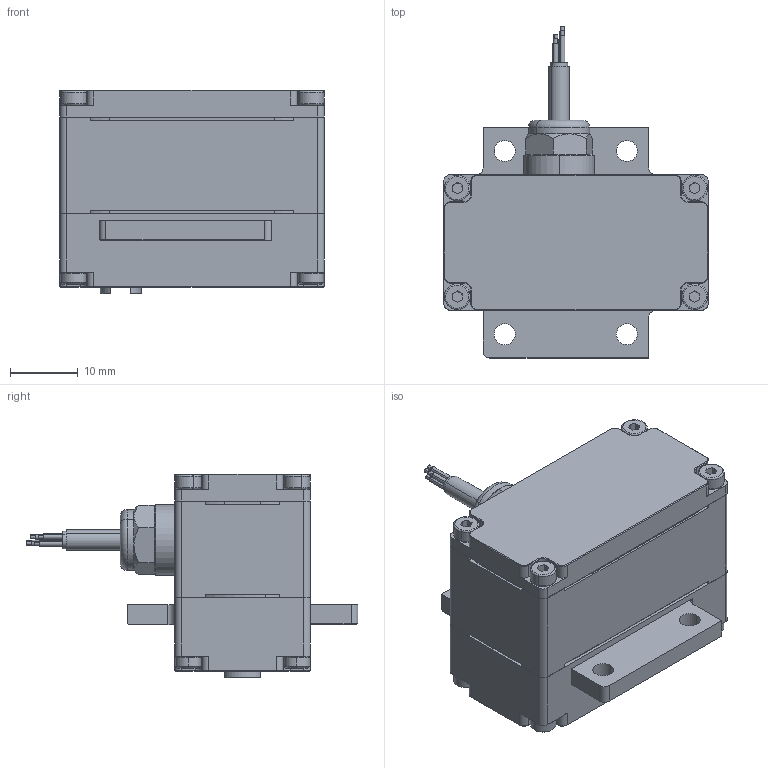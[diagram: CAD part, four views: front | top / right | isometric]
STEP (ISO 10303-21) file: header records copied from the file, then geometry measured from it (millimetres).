
FILE_DESCRIPTION (( 'STEP AP214' ), '1' );
FILE_NAME ('HS20T_DM_20210303.STEP', '2021-03-03T09:33:08', ( '' ), ( '' ), 'SwSTEP 2.0', 'SolidWorks 2016', '' );
FILE_SCHEMA (( 'AUTOMOTIVE_DESIGN' ));
Length unit declared in the file: millimetre
Products named in the file (1): HS20T_DM_20210303
Bounding box: 39 x 48.9 x 30 mm (x, y, z)
Surface area: 7824.3 mm2 (no closed solid volume)
Topology: 0 solids, 18 shells, 382 faces, 1076 edges, 725 vertices
Faces by surface type: plane 202, cylinder 110, cone 44, torus 18, bspline 8
Entity records: 17137 total; most frequent: CARTESIAN_POINT 2895, DIRECTION 2200, ORIENTED_EDGE 1891, EDGE_CURVE 1076, AXIS2_PLACEMENT_3D 774, VERTEX_POINT 725, VECTOR 652, LINE 652
